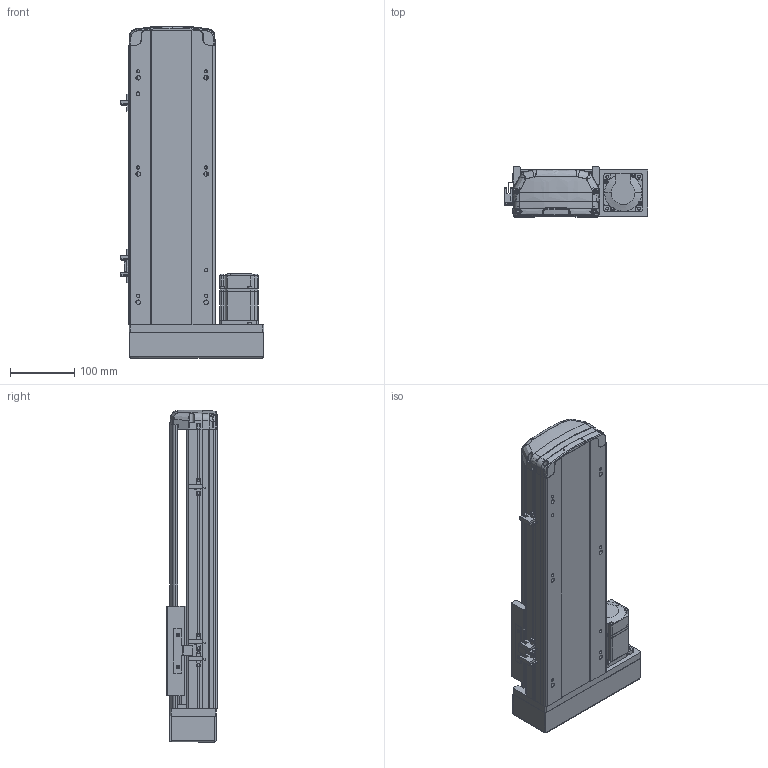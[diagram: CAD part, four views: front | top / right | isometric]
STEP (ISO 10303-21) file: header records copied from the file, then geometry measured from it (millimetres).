
FILE_DESCRIPTION (( 'STEP AP214' ), '1' );
FILE_NAME ('RTH14-XX-250-R-M20-C4.STEP', '2025-10-24T09:51:27', ( 'Microsoft' ), ( 'Microsoft' ), 'SwSTEP 2.0', 'SolidWorks 2018', '' );
FILE_SCHEMA (( 'AUTOMOTIVE_DESIGN' ));
Length unit declared in the file: millimetre
Products named in the file (10): N_RTH13-L-008-P20 萇儂啣酘蛌殏^RTH14-XX-XX-R-M20-C4; N_RTH13-L-012感应片（外置）^RTH14-XX-XX-R-M20-C4; N_RTH14-GY-001P^RTH14-XX-XX-R-M20-C4; N_RTH13-L-018 裔赽^RTH14-XX-XX-R-M20-C4; N_RTH14-M-007P奻裔^RTH14-XX-XX-R-M20-C4; N_RTH14-R-004-SFSR16賑釱^RTH14-XX-XX-R-M20-C4; N_OMRON EE-SX672 传感器^RTH14-XX-XX-R-M20-C4; N_MSMD022P1AA_200W^RTH14-XX-XX-R-M20-C4; N_RTH14-M-011P菁釱^RTH14-XX-XX-R-M20-C4; RTH14-XX-250-R-M20-C4
Assembly tree (11 placements, depth 2):
  RTH14-XX-250-R-M20-C4
    N_RTH14-M-011P菁釱^RTH14-XX-XX-R-M20-C4
    N_RTH14-M-007P奻裔^RTH14-XX-XX-R-M20-C4
    N_MSMD022P1AA_200W^RTH14-XX-XX-R-M20-C4
    N_RTH13-L-008-P20 萇儂啣酘蛌殏^RTH14-XX-XX-R-M20-C4
    N_RTH13-L-018 裔赽^RTH14-XX-XX-R-M20-C4
    N_RTH13-L-012感应片（外置）^RTH14-XX-XX-R-M20-C4
    N_OMRON EE-SX672 传感器^RTH14-XX-XX-R-M20-C4  x3
    N_RTH14-R-004-SFSR16賑釱^RTH14-XX-XX-R-M20-C4
    N_RTH14-GY-001P^RTH14-XX-XX-R-M20-C4
Bounding box: 224 x 78.03 x 517.73 mm (x, y, z)
Volume: 2612032 mm3; surface area: 637475.5 mm2
Topology: 10 solids, 12 shells, 1841 faces, 5146 edges, 3373 vertices
Faces by surface type: plane 985, cylinder 461, bspline 346, cone 45, torus 4
Entity records: 56029 total; most frequent: CARTESIAN_POINT 22825, ORIENTED_EDGE 7349, DIRECTION 5832, EDGE_CURVE 3680, VERTEX_POINT 2409, VECTOR 2126, LINE 2126, AXIS2_PLACEMENT_3D 1853
